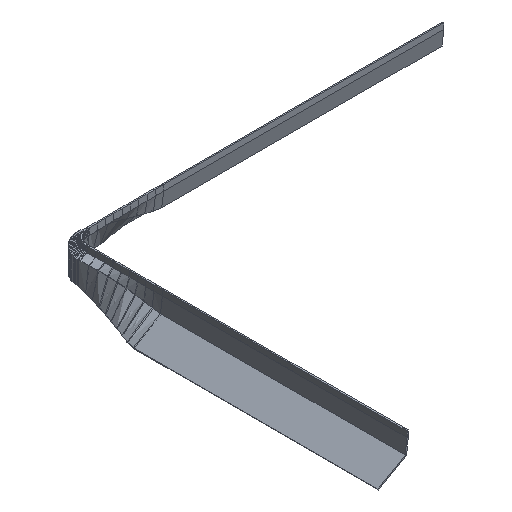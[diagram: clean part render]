
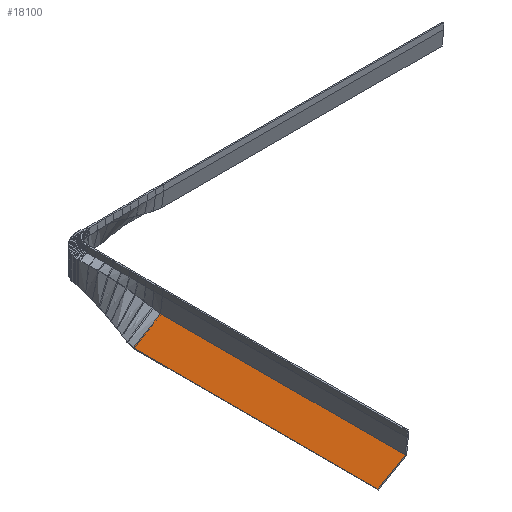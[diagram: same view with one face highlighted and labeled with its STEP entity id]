
A CAD part, isometric view. The second image highlights one B-rep face of the part: STEP entity #18100.
In plain terms, the highlighted planar face has unit normal (-0.5, 0, 0.866).
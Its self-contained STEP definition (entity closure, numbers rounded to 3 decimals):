
#17309 = B_SPLINE_SURFACE_WITH_KNOTS('',1,1,(
    (#17310,#17311)
    ,(#17312,#17313
    )),.UNSPECIFIED.,.F.,.F.,.F.,(2,2),(2,2),(0.,14.2),(0.,1.),
  .PIECEWISE_BEZIER_KNOTS.);
#17310 = CARTESIAN_POINT('',(-179.785,114.133,
    2.297));
#17311 = CARTESIAN_POINT('',(-180.683,110.4,2.389));
#17312 = CARTESIAN_POINT('',(-168.419,114.133,
    9.964));
#17313 = CARTESIAN_POINT('',(-168.385,110.4,9.489));
#17687 = VERTEX_POINT('',#17688);
#17688 = CARTESIAN_POINT('',(-168.385,110.4,9.489));
#17708 = EDGE_CURVE('',#17709,#17687,#17711,.T.);
#17709 = VERTEX_POINT('',#17710);
#17710 = CARTESIAN_POINT('',(-180.683,110.4,2.389));
#17711 = SURFACE_CURVE('',#17712,(#17716,#17723),.PCURVE_S1.);
#17712 = LINE('',#17713,#17714);
#17713 = CARTESIAN_POINT('',(-180.683,110.4,2.389));
#17714 = VECTOR('',#17715,1.);
#17715 = DIRECTION('',(0.866,0.,0.5));
#17716 = PCURVE('',#17309,#17717);
#17717 = DEFINITIONAL_REPRESENTATION('',(#17718),#17722);
#17718 = LINE('',#17719,#17720);
#17719 = CARTESIAN_POINT('',(0.,1.));
#17720 = VECTOR('',#17721,1.);
#17721 = DIRECTION('',(1.,0.));
#17722 = ( GEOMETRIC_REPRESENTATION_CONTEXT(2) 
PARAMETRIC_REPRESENTATION_CONTEXT() REPRESENTATION_CONTEXT('2D SPACE',''
  ) );
#17723 = PCURVE('',#17724,#17729);
#17724 = PLANE('',#17725);
#17725 = AXIS2_PLACEMENT_3D('',#17726,#17727,#17728);
#17726 = CARTESIAN_POINT('',(-180.683,0.15,2.389));
#17727 = DIRECTION('',(0.5,0.,-0.866));
#17728 = DIRECTION('',(0.866,0.,0.5));
#17729 = DEFINITIONAL_REPRESENTATION('',(#17730),#17734);
#17730 = LINE('',#17731,#17732);
#17731 = CARTESIAN_POINT('',(0.,-110.25));
#17732 = VECTOR('',#17733,1.);
#17733 = DIRECTION('',(1.,0.));
#17734 = ( GEOMETRIC_REPRESENTATION_CONTEXT(2) 
PARAMETRIC_REPRESENTATION_CONTEXT() REPRESENTATION_CONTEXT('2D SPACE',''
  ) );
#17795 = PLANE('',#17796);
#17796 = AXIS2_PLACEMENT_3D('',#17797,#17798,#17799);
#17797 = CARTESIAN_POINT('',(-168.385,0.15,9.489));
#17798 = DIRECTION('',(0.993,0.,-0.12));
#17799 = DIRECTION('',(0.12,0.,0.993));
#18088 = PLANE('',#18089);
#18089 = AXIS2_PLACEMENT_3D('',#18090,#18091,#18092);
#18090 = CARTESIAN_POINT('',(-180.383,0.15,1.869));
#18091 = DIRECTION('',(0.866,0.,0.5));
#18092 = DIRECTION('',(-0.5,0.,0.866));
#18100 = ADVANCED_FACE('',(#18101),#17724,.F.);
#18101 = FACE_BOUND('',#18102,.F.);
#18102 = EDGE_LOOP('',(#18103,#18104,#18124,#18152));
#18103 = ORIENTED_EDGE('',*,*,#17708,.T.);
#18104 = ORIENTED_EDGE('',*,*,#18105,.T.);
#18105 = EDGE_CURVE('',#17687,#18106,#18108,.T.);
#18106 = VERTEX_POINT('',#18107);
#18107 = CARTESIAN_POINT('',(-168.385,0.15,9.489));
#18108 = SURFACE_CURVE('',#18109,(#18112,#18118),.PCURVE_S1.);
#18109 = B_SPLINE_CURVE_WITH_KNOTS('',1,(#18110,#18111),.UNSPECIFIED.,
  .F.,.F.,(2,2),(0.,1.),.PIECEWISE_BEZIER_KNOTS.);
#18110 = CARTESIAN_POINT('',(-168.385,110.4,9.489));
#18111 = CARTESIAN_POINT('',(-168.385,0.15,9.489));
#18112 = PCURVE('',#17724,#18113);
#18113 = DEFINITIONAL_REPRESENTATION('',(#18114),#18117);
#18114 = B_SPLINE_CURVE_WITH_KNOTS('',1,(#18115,#18116),.UNSPECIFIED.,
  .F.,.F.,(2,2),(0.,1.),.PIECEWISE_BEZIER_KNOTS.);
#18115 = CARTESIAN_POINT('',(14.2,-110.25));
#18116 = CARTESIAN_POINT('',(14.2,0.));
#18117 = ( GEOMETRIC_REPRESENTATION_CONTEXT(2) 
PARAMETRIC_REPRESENTATION_CONTEXT() REPRESENTATION_CONTEXT('2D SPACE',''
  ) );
#18118 = PCURVE('',#17795,#18119);
#18119 = DEFINITIONAL_REPRESENTATION('',(#18120),#18123);
#18120 = B_SPLINE_CURVE_WITH_KNOTS('',1,(#18121,#18122),.UNSPECIFIED.,
  .F.,.F.,(2,2),(0.,1.),.PIECEWISE_BEZIER_KNOTS.);
#18121 = CARTESIAN_POINT('',(0.,-110.25));
#18122 = CARTESIAN_POINT('',(0.,0.));
#18123 = ( GEOMETRIC_REPRESENTATION_CONTEXT(2) 
PARAMETRIC_REPRESENTATION_CONTEXT() REPRESENTATION_CONTEXT('2D SPACE',''
  ) );
#18124 = ORIENTED_EDGE('',*,*,#18125,.F.);
#18125 = EDGE_CURVE('',#18126,#18106,#18128,.T.);
#18126 = VERTEX_POINT('',#18127);
#18127 = CARTESIAN_POINT('',(-180.683,0.15,2.389));
#18128 = SURFACE_CURVE('',#18129,(#18133,#18140),.PCURVE_S1.);
#18129 = LINE('',#18130,#18131);
#18130 = CARTESIAN_POINT('',(-180.683,0.15,2.389));
#18131 = VECTOR('',#18132,1.);
#18132 = DIRECTION('',(0.866,0.,0.5));
#18133 = PCURVE('',#17724,#18134);
#18134 = DEFINITIONAL_REPRESENTATION('',(#18135),#18139);
#18135 = LINE('',#18136,#18137);
#18136 = CARTESIAN_POINT('',(0.,0.));
#18137 = VECTOR('',#18138,1.);
#18138 = DIRECTION('',(1.,0.));
#18139 = ( GEOMETRIC_REPRESENTATION_CONTEXT(2) 
PARAMETRIC_REPRESENTATION_CONTEXT() REPRESENTATION_CONTEXT('2D SPACE',''
  ) );
#18140 = PCURVE('',#18141,#18146);
#18141 = PLANE('',#18142);
#18142 = AXIS2_PLACEMENT_3D('',#18143,#18144,#18145);
#18143 = CARTESIAN_POINT('',(-180.683,0.15,2.389));
#18144 = DIRECTION('',(0.,1.,0.));
#18145 = DIRECTION('',(0.645,-0.,0.764));
#18146 = DEFINITIONAL_REPRESENTATION('',(#18147),#18151);
#18147 = LINE('',#18148,#18149);
#18148 = CARTESIAN_POINT('',(0.,0.));
#18149 = VECTOR('',#18150,1.);
#18150 = DIRECTION('',(0.941,0.339));
#18151 = ( GEOMETRIC_REPRESENTATION_CONTEXT(2) 
PARAMETRIC_REPRESENTATION_CONTEXT() REPRESENTATION_CONTEXT('2D SPACE',''
  ) );
#18152 = ORIENTED_EDGE('',*,*,#18153,.F.);
#18153 = EDGE_CURVE('',#17709,#18126,#18154,.T.);
#18154 = SURFACE_CURVE('',#18155,(#18158,#18164),.PCURVE_S1.);
#18155 = B_SPLINE_CURVE_WITH_KNOTS('',1,(#18156,#18157),.UNSPECIFIED.,
  .F.,.F.,(2,2),(0.,1.),.PIECEWISE_BEZIER_KNOTS.);
#18156 = CARTESIAN_POINT('',(-180.683,110.4,2.389));
#18157 = CARTESIAN_POINT('',(-180.683,0.15,2.389));
#18158 = PCURVE('',#17724,#18159);
#18159 = DEFINITIONAL_REPRESENTATION('',(#18160),#18163);
#18160 = B_SPLINE_CURVE_WITH_KNOTS('',1,(#18161,#18162),.UNSPECIFIED.,
  .F.,.F.,(2,2),(0.,1.),.PIECEWISE_BEZIER_KNOTS.);
#18161 = CARTESIAN_POINT('',(0.,-110.25));
#18162 = CARTESIAN_POINT('',(0.,0.));
#18163 = ( GEOMETRIC_REPRESENTATION_CONTEXT(2) 
PARAMETRIC_REPRESENTATION_CONTEXT() REPRESENTATION_CONTEXT('2D SPACE',''
  ) );
#18164 = PCURVE('',#18088,#18165);
#18165 = DEFINITIONAL_REPRESENTATION('',(#18166),#18169);
#18166 = B_SPLINE_CURVE_WITH_KNOTS('',1,(#18167,#18168),.UNSPECIFIED.,
  .F.,.F.,(2,2),(0.,1.),.PIECEWISE_BEZIER_KNOTS.);
#18167 = CARTESIAN_POINT('',(0.6,-110.25));
#18168 = CARTESIAN_POINT('',(0.6,0.));
#18169 = ( GEOMETRIC_REPRESENTATION_CONTEXT(2) 
PARAMETRIC_REPRESENTATION_CONTEXT() REPRESENTATION_CONTEXT('2D SPACE',''
  ) );
